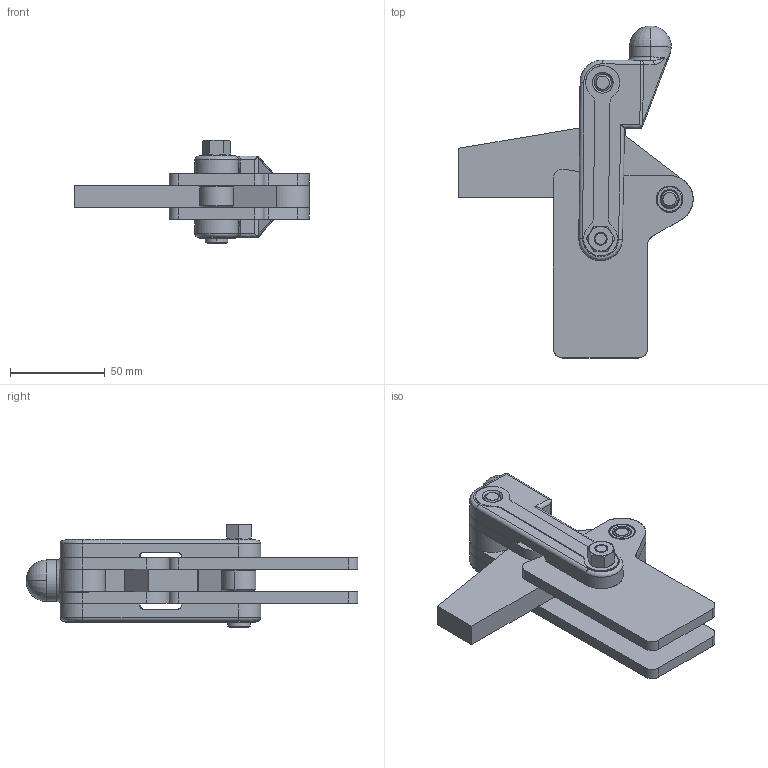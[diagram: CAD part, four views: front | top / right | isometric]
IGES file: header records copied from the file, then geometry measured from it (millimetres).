
Start section: Comment
Global section: file name: 71220.igs; native system:  By Spatial Corp.; preprocessor: XPlus PS/IGES 3.0; author: Author; organization: Title; date: 20050217.132439; units: inch
Bounding box: 124.01 x 175.65 x 55 mm (x, y, z)
Surface area: 76120.7 mm2 (no closed solid volume)
Topology: 0 solids, 0 shells, 399 faces, 1862 edges, 1855 vertices
Faces by surface type: revolution 284, extrusion 106, bspline 9
